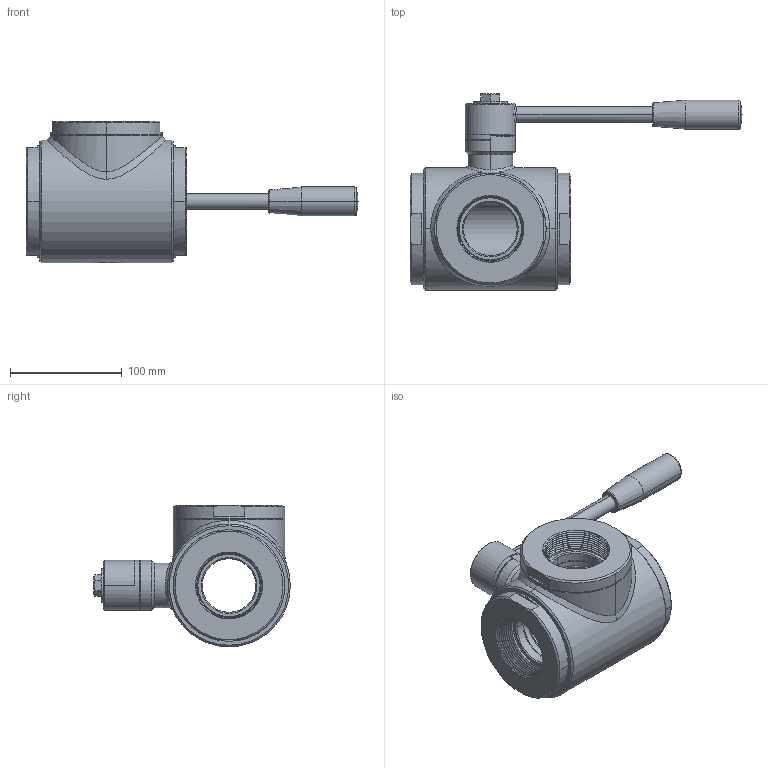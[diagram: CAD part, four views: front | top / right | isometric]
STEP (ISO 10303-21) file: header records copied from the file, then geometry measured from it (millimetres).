
FILE_DESCRIPTION((''),'2;1');
FILE_NAME('30010463810_SW0001','2026-05-13T16:26:05',('tecnico2'),('CDM Tecnoconsulting'),'CREO PARAMETRIC BY PTC INC, 2024063','CREO PARAMETRIC BY PTC INC, 2024063','');
FILE_SCHEMA(('CONFIG_CONTROL_DESIGN','SHAPE_APPEARANCE_LAYERS_GROUPS'));
Products named in the file (1): 30010463810_SW0001
Bounding box: 297.5 x 176.3 x 127 mm (x, y, z)
Volume: 1093842.8 mm3; surface area: 223010.7 mm2
Topology: 1 solids, 1 shells, 881 faces, 2394 edges, 1522 vertices
Faces by surface type: plane 345, cylinder 192, cone 168, bspline 80, extrusion 56, torus 36, sphere 4
Entity records: 73082 total; most frequent: CARTESIAN_POINT 44235, ORIENTED_EDGE 4756, DIRECTION 3874, PRESENTATION_STYLE_ASSIGNMENT 2445, STYLED_ITEM 2379, CURVE_STYLE 2378, EDGE_CURVE 2378, VERTEX_POINT 1522
